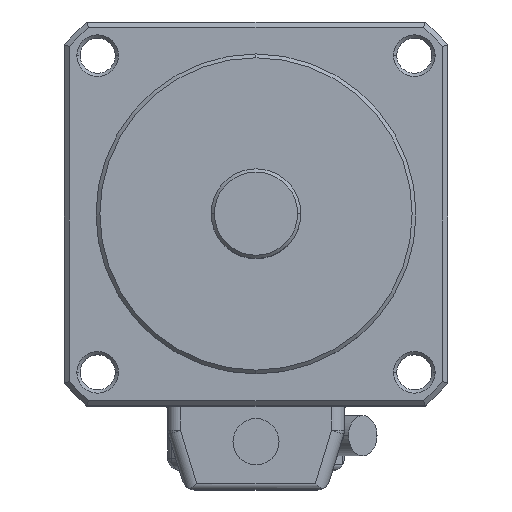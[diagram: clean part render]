
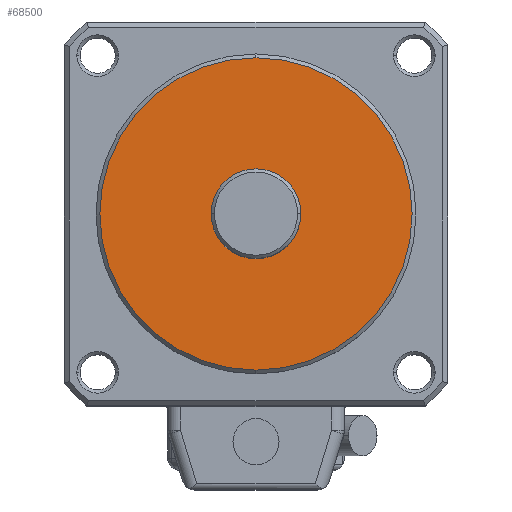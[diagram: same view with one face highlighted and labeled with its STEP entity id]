
A CAD part, top view. The second image highlights one B-rep face of the part: STEP entity #68500.
In plain terms, the highlighted planar face has unit normal (0, 0, 1).
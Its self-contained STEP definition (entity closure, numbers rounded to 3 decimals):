
#68110=CARTESIAN_POINT('',(-24.4,-24.4,3.));
#68120=DIRECTION('',(0.,0.,1.));
#68130=DIRECTION('',(1.,0.,0.));
#68140=AXIS2_PLACEMENT_3D('',#68110,#68120,#68130);
#68150=PLANE('',#68140);
#68160=CARTESIAN_POINT('',(0.,0.,3.
));
#68170=DIRECTION('',(0.,0.,1.));
#68180=DIRECTION('',(0.,-1.,0.));
#68190=AXIS2_PLACEMENT_3D('',#68160,#68170,#68180);
#68200=CIRCLE('',#68190,24.4);
#68210=CARTESIAN_POINT('',(0.,24.4,3.))
;
#68220=VERTEX_POINT('',#68210);
#68230=CARTESIAN_POINT('',(0.,-24.4,3.));
#68240=VERTEX_POINT('',#68230);
#68250=EDGE_CURVE('',#68220,#68240,#68200,.T.);
#68260=ORIENTED_EDGE('',*,*,#68250,.T.);
#68270=CARTESIAN_POINT('',(24.4,0.,3.));
#68280=VERTEX_POINT('',#68270);
#68290=EDGE_CURVE('',#68280,#68220,#68200,.T.);
#68300=ORIENTED_EDGE('',*,*,#68290,.T.);
#68310=EDGE_CURVE('',#68240,#68280,#68200,.T.);
#68320=ORIENTED_EDGE('',*,*,#68310,.T.);
#68330=EDGE_LOOP('',(#68320,#68300,#68260));
#68340=FACE_OUTER_BOUND('',#68330,.T.);
#68350=CARTESIAN_POINT('',(0.,0.,3.)
);
#68360=DIRECTION('',(0.,0.,1.));
#68370=DIRECTION('',(1.,0.,0.));
#68380=AXIS2_PLACEMENT_3D('',#68350,#68360,#68370);
#68390=CIRCLE('',#68380,7.);
#68400=CARTESIAN_POINT('',(-7.,0.,3.));
#68410=VERTEX_POINT('',#68400);
#68420=CARTESIAN_POINT('',(7.,0.,3.));
#68430=VERTEX_POINT('',#68420);
#68440=EDGE_CURVE('',#68410,#68430,#68390,.T.);
#68450=ORIENTED_EDGE('',*,*,#68440,.F.);
#68460=EDGE_CURVE('',#68430,#68410,#68390,.T.);
#68470=ORIENTED_EDGE('',*,*,#68460,.F.);
#68480=EDGE_LOOP('',(#68470,#68450));
#68490=FACE_BOUND('',#68480,.T.);
#68500=ADVANCED_FACE('',(#68340,#68490),#68150,.T.);
